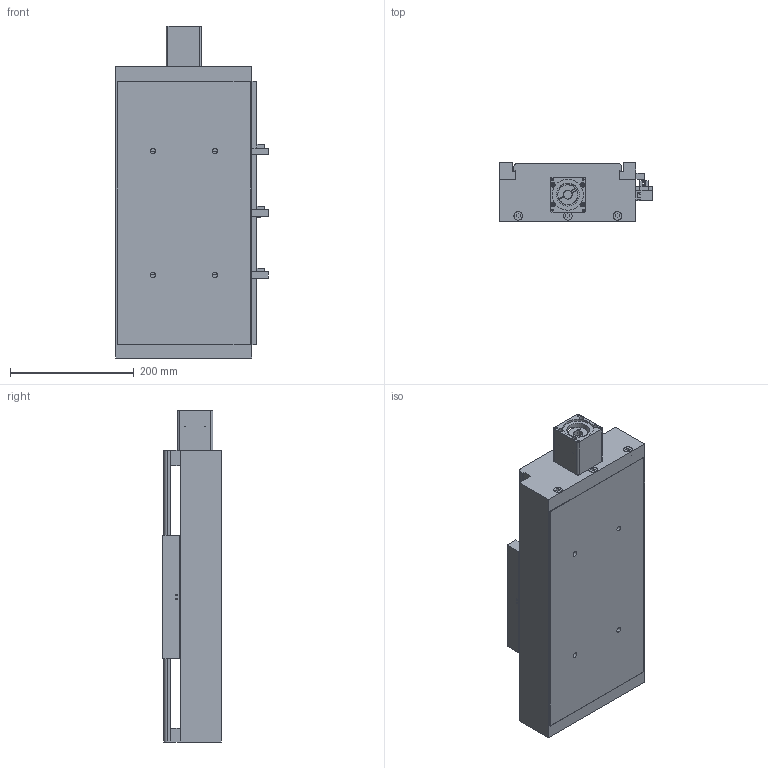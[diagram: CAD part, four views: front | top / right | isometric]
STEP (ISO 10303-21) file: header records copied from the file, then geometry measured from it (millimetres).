
FILE_DESCRIPTION((''),'2;1');
FILE_NAME('E:\libraries\UIA actuator library 2016\standard actuator\UIA220R20NDC\UIA220R20NDC ball screw 20\UIA220R20NDC-_ _ _-R20_ _ stp file, 01May16\UIA220R20NDC-200-R20_ _-M60-P13-C10-S.stp','2016-04-29T15:05:07',('h029'),(''),'Autodesk Inventor 11','Autodesk Inventor 11','');
FILE_SCHEMA(('AUTOMOTIVE_DESIGN { 1 0 10303 214 1 1 1 1 }'));
Length unit declared in the file: millimetre
Products named in the file (10): UIA220R20NDC-200-R20_ _; UIA220R20NDC-body; 41-100 0010 CARRIAGE; sensor rail; Sensor Switch; motor mount M60; SOH-32C; SOH-32C-3; SOH-32C-1; SOH-32C-2
Assembly tree (9 placements, depth 3):
  UIA220R20NDC-200-R20_ _
    UIA220R20NDC-body
    41-100 0010 CARRIAGE
    sensor rail
    Sensor Switch
    motor mount M60
    SOH-32C
      SOH-32C-3
      SOH-32C-1
      SOH-32C-2
Bounding box: 246.5 x 96 x 536 mm (x, y, z)
Volume: 3846118.9 mm3; surface area: 817259.6 mm2
Topology: 8 solids, 8 shells, 500 faces, 1342 edges, 882 vertices
Faces by surface type: plane 341, bspline 109, cylinder 48, cone 2
Full cylindrical faces by diameter (mm): 3.242 x2, 4.5 x2, 7 x4, 7.5 x2, 12 x2, 13.8 x3, 14 x4, 15 x1, 32 x3, 37 x1, 46.9 x1, 47.1 x1
Entity records: 16326 total; most frequent: CARTESIAN_POINT 4540, ORIENTED_EDGE 2298, DIRECTION 2249, EDGE_CURVE 1149, VECTOR 849, LINE 849, VERTEX_POINT 808, EDGE_LOOP 711
